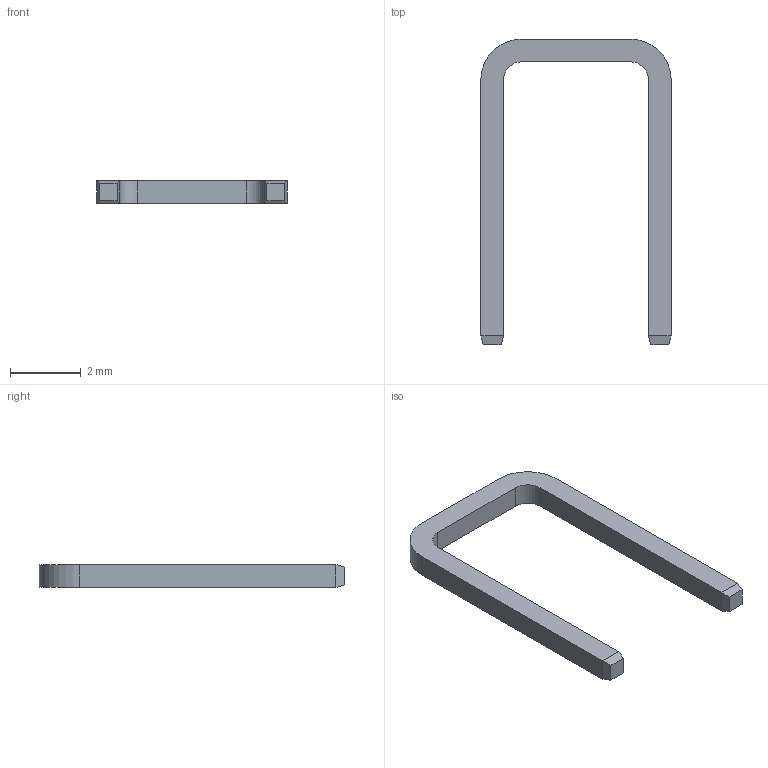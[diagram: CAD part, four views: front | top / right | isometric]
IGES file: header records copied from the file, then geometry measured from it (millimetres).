
Start section:  PTC IGES file: m80-0030006.igs
Global section: file name: m80-0030006.igs; native system: Pro/ENGINEER by Parametric Technology Corporation; preprocessor: 2010280; author: wbourne; organization: Unknown; date: 20110906.140656; units: millimetre
Bounding box: 5.38 x 8.64 x 0.64 mm (x, y, z)
Surface area: 53.3 mm2 (no closed solid volume)
Topology: 0 solids, 0 shells, 22 faces, 104 edges, 104 vertices
Faces by surface type: bspline 18, revolution 4
